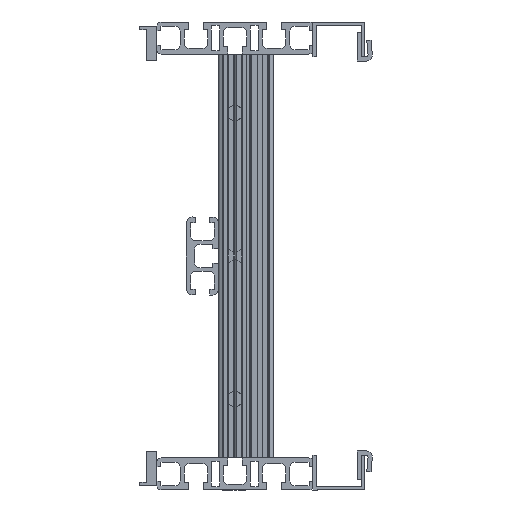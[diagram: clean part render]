
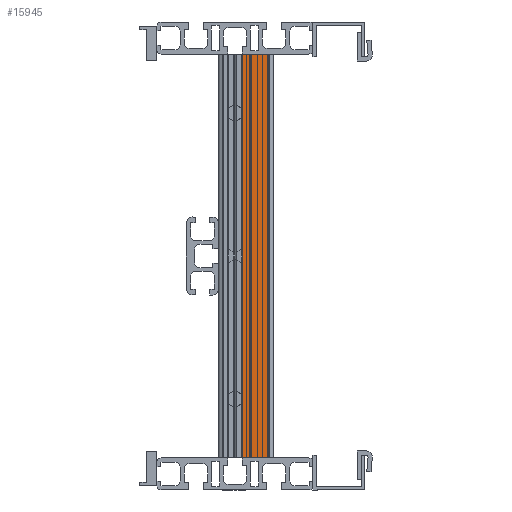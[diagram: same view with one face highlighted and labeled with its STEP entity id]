
A CAD part, left-side view. The second image highlights one B-rep face of the part: STEP entity #15945.
In plain terms, the highlighted planar face has unit normal (-1, 0, 0).
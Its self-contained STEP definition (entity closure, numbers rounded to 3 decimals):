
#1995 = EDGE_LOOP ( 'NONE', ( #6313, #6312, #6311, #6310 ) ) ;
#4047 = AXIS2_PLACEMENT_3D ( 'NONE', #11107, #11115, #11116 ) ;
#6310 = ORIENTED_EDGE ( 'NONE', *, *, #28354, .T. ) ;
#6311 = ORIENTED_EDGE ( 'NONE', *, *, #28350, .F. ) ;
#6312 = ORIENTED_EDGE ( 'NONE', *, *, #28351, .F. ) ;
#6313 = ORIENTED_EDGE ( 'NONE', *, *, #28352, .T. ) ;
#8916 = FACE_OUTER_BOUND ( 'NONE', #1995, .T. ) ;
#11107 = CARTESIAN_POINT ( 'NONE',  ( -1000., -65., -116.5 ) ) ;
#11112 = PLANE ( 'NONE',  #4047 ) ;
#11115 = DIRECTION ( 'NONE',  ( 1., 0., 0. ) ) ;
#11116 = DIRECTION ( 'NONE',  ( 0., 0., -1. ) ) ;
#15945 = ADVANCED_FACE ( 'NONE', ( #8916 ), #11112, .F. ) ;
#20649 = CARTESIAN_POINT ( 'NONE',  ( -1000., -65., -116.5 ) ) ;
#20712 = LINE ( 'NONE', #20649, #20721 ) ;
#20720 = LINE ( 'NONE', #21813, #20723 ) ;
#20721 = VECTOR ( 'NONE', #21812, 1000. ) ;
#20722 = LINE ( 'NONE', #21815, #20725 ) ;
#20723 = VECTOR ( 'NONE', #21814, 1000. ) ;
#20725 = VECTOR ( 'NONE', #21817, 1000. ) ;
#20726 = LINE ( 'NONE', #21816, #20728 ) ;
#20728 = VECTOR ( 'NONE', #21810, 1000. ) ;
#21810 = DIRECTION ( 'NONE',  ( 0., 0., 1. ) ) ;
#21812 = DIRECTION ( 'NONE',  ( 0., 1., 0. ) ) ;
#21813 = CARTESIAN_POINT ( 'NONE',  ( -1000., -49.15, -116.5 ) ) ;
#21814 = DIRECTION ( 'NONE',  ( 0., 0., 1. ) ) ;
#21815 = CARTESIAN_POINT ( 'NONE',  ( -1000., -65., 116.5 ) ) ;
#21816 = CARTESIAN_POINT ( 'NONE',  ( -1000., -65., -116.5 ) ) ;
#21817 = DIRECTION ( 'NONE',  ( 0., 1., 0. ) ) ;
#25669 = CARTESIAN_POINT ( 'NONE',  ( -1000., -65., 116.5 ) ) ;
#25998 = CARTESIAN_POINT ( 'NONE',  ( -1000., -65., -116.5 ) ) ;
#26012 = CARTESIAN_POINT ( 'NONE',  ( -1000., -49.15, 116.5 ) ) ;
#26074 = CARTESIAN_POINT ( 'NONE',  ( -1000., -49.15, -116.5 ) ) ;
#28350 = EDGE_CURVE ( 'NONE', #32669, #32745, #20712, .T. ) ;
#28351 = EDGE_CURVE ( 'NONE', #32745, #32683, #20720, .T. ) ;
#28352 = EDGE_CURVE ( 'NONE', #31788, #32683, #20722, .T. ) ;
#28354 = EDGE_CURVE ( 'NONE', #32669, #31788, #20726, .T. ) ;
#31788 = VERTEX_POINT ( 'NONE', #25669 ) ;
#32669 = VERTEX_POINT ( 'NONE', #25998 ) ;
#32683 = VERTEX_POINT ( 'NONE', #26012 ) ;
#32745 = VERTEX_POINT ( 'NONE', #26074 ) ;
